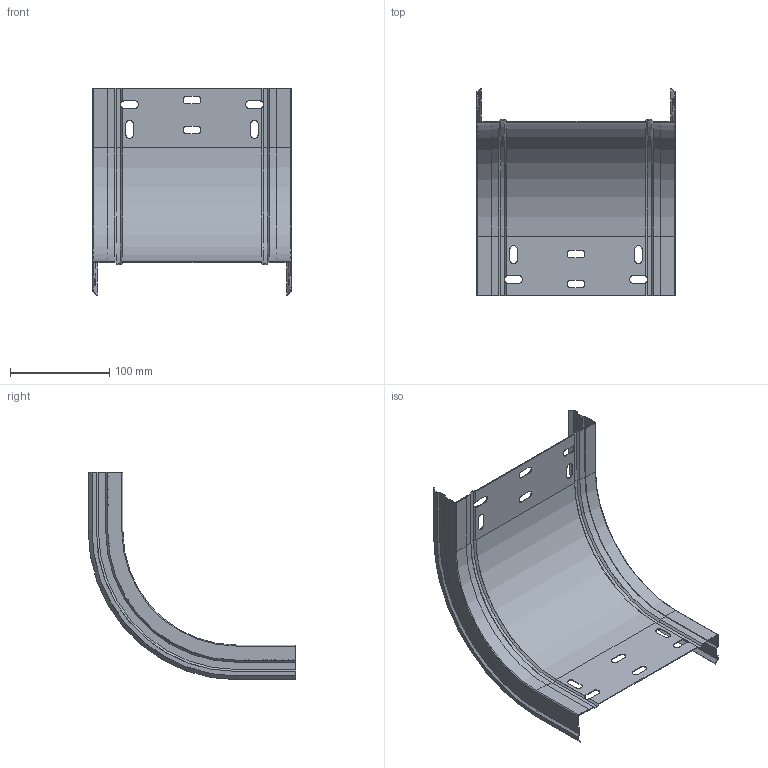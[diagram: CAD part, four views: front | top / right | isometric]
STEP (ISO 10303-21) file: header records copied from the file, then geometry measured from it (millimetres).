
FILE_DESCRIPTION (( 'STEP AP203' ), '1' );
FILE_NAME ('ERE_CONVEXA 200x35.step', '2023-07-27T18:48:43', ( '' ), ( '' ), 'SwSTEP 2.0', 'SolidWorks 2022', '' );
FILE_SCHEMA (( 'CONFIG_CONTROL_DESIGN' ));
Length unit declared in the file: millimetre
Products named in the file (3): ERE_BASE CX_200; ERE_CONVEXA 200x35; ERE_LATERAL CX_35
Assembly tree (3 placements, depth 2):
  ERE_CONVEXA 200x35
    ERE_BASE CX_200
    ERE_LATERAL CX_35  x2
Bounding box: 200 x 209.2 x 209.2 mm (x, y, z)
Volume: 73929.7 mm3; surface area: 187278.1 mm2
Topology: 3 solids, 3 shells, 214 faces, 570 edges, 354 vertices
Faces by surface type: plane 134, cylinder 54, cone 22, torus 4
Entity records: 5551 total; most frequent: CARTESIAN_POINT 948, ORIENTED_EDGE 904, DIRECTION 896, EDGE_CURVE 452, LINE 324, VECTOR 324, AXIS2_PLACEMENT_3D 286, VERTEX_POINT 282
